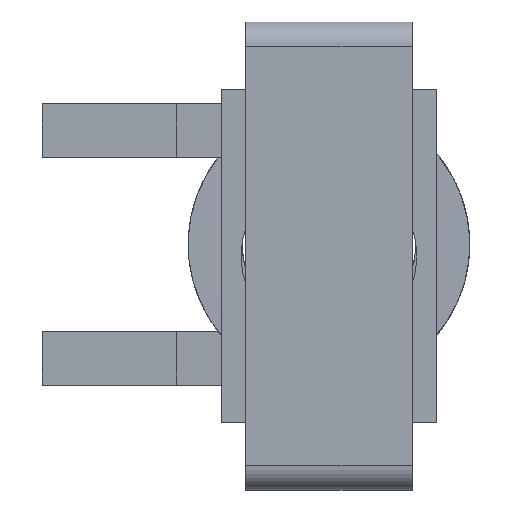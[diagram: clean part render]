
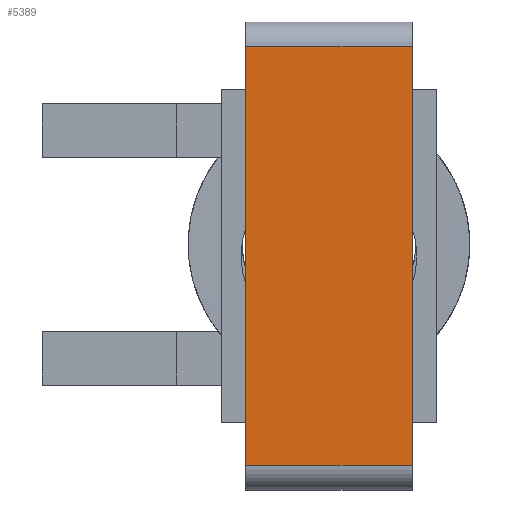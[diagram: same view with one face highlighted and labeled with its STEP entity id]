
A CAD part, front view. The second image highlights one B-rep face of the part: STEP entity #5389.
In plain terms, the highlighted planar face has unit normal (0, -1, 0).
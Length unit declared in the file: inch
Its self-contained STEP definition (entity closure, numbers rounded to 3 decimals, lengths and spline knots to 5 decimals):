
#64 = DIRECTION ( 'NONE',  ( -1., 0., 0. ) ) ;
#208 = LINE ( 'NONE', #2176, #5855 ) ;
#218 = ORIENTED_EDGE ( 'NONE', *, *, #5268, .F. ) ;
#519 = CARTESIAN_POINT ( 'NONE',  ( 0.61, -0.47425, 0.7685 ) ) ;
#745 = ORIENTED_EDGE ( 'NONE', *, *, #2114, .T. ) ;
#887 = PLANE ( 'NONE',  #3018 ) ;
#1405 = VERTEX_POINT ( 'NONE', #8337 ) ;
#1653 = LINE ( 'NONE', #3773, #8394 ) ;
#2114 = EDGE_CURVE ( 'NONE', #1405, #4142, #1653, .T. ) ;
#2145 = DIRECTION ( 'NONE',  ( 0., 0., -1. ) ) ;
#2176 = CARTESIAN_POINT ( 'NONE',  ( 0.61, -0.47425, 0.7685 ) ) ;
#2398 = EDGE_LOOP ( 'NONE', ( #745, #218, #4913, #3689 ) ) ;
#2589 = EDGE_CURVE ( 'NONE', #6636, #1405, #7125, .T. ) ;
#3018 = AXIS2_PLACEMENT_3D ( 'NONE', #4360, #3633, #8533 ) ;
#3176 = FACE_OUTER_BOUND ( 'NONE', #2398, .T. ) ;
#3292 = LINE ( 'NONE', #3504, #8596 ) ;
#3504 = CARTESIAN_POINT ( 'NONE',  ( 0.61, -0.47425, -0.7685 ) ) ;
#3633 = DIRECTION ( 'NONE',  ( 0., 1., 0. ) ) ;
#3689 = ORIENTED_EDGE ( 'NONE', *, *, #2589, .T. ) ;
#3773 = CARTESIAN_POINT ( 'NONE',  ( 0., -0.47425, 0.7685 ) ) ;
#4142 = VERTEX_POINT ( 'NONE', #6552 ) ;
#4171 = CARTESIAN_POINT ( 'NONE',  ( 0.61, -0.47425, 0.7685 ) ) ;
#4360 = CARTESIAN_POINT ( 'NONE',  ( 0.61, -0.47425, 0.7685 ) ) ;
#4913 = ORIENTED_EDGE ( 'NONE', *, *, #7871, .F. ) ;
#5268 = EDGE_CURVE ( 'NONE', #7065, #4142, #3292, .T. ) ;
#5389 = ADVANCED_FACE ( 'NONE', ( #3176 ), #887, .F. ) ;
#5855 = VECTOR ( 'NONE', #2145, 39.37008 ) ;
#6552 = CARTESIAN_POINT ( 'NONE',  ( 0., -0.47425, -0.7685 ) ) ;
#6636 = VERTEX_POINT ( 'NONE', #4171 ) ;
#7065 = VERTEX_POINT ( 'NONE', #8347 ) ;
#7125 = LINE ( 'NONE', #519, #8744 ) ;
#7291 = DIRECTION ( 'NONE',  ( 0., 0., -1. ) ) ;
#7871 = EDGE_CURVE ( 'NONE', #6636, #7065, #208, .T. ) ;
#8203 = DIRECTION ( 'NONE',  ( -1., 0., 0. ) ) ;
#8337 = CARTESIAN_POINT ( 'NONE',  ( 0., -0.47425, 0.7685 ) ) ;
#8347 = CARTESIAN_POINT ( 'NONE',  ( 0.61, -0.47425, -0.7685 ) ) ;
#8394 = VECTOR ( 'NONE', #7291, 39.37008 ) ;
#8533 = DIRECTION ( 'NONE',  ( 0., 0., 1. ) ) ;
#8596 = VECTOR ( 'NONE', #64, 39.37008 ) ;
#8744 = VECTOR ( 'NONE', #8203, 39.37008 ) ;
